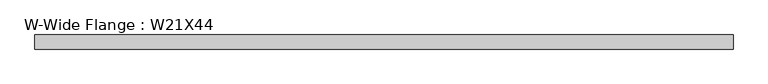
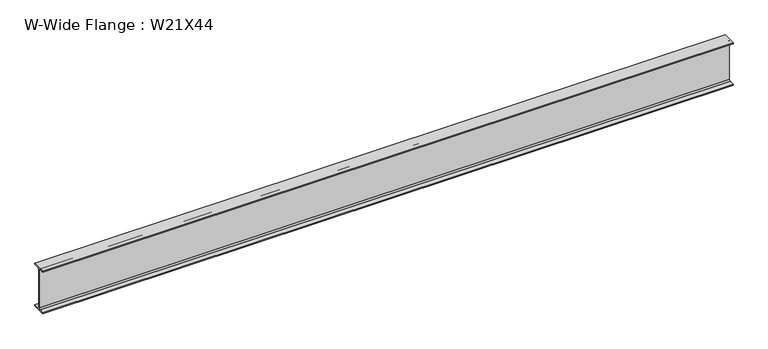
"""IFC4 building model written with IfcOpenShell, lengths in millimetres: beam geometry, W-Wide Flange : W21X44."""

import ifcopenshell
import ifcopenshell.guid

model = None  # the IFC model being written
_history = None  # IfcOwnerHistory: only IFC2X3 demands one
_inside = {}  # id of a spatial element -> (the spatial element, [elements in it])
_under = {}  # id of a project, library or spatial element -> (it, [spatial elements below it])
_declared = {}  # id of a project -> (the project, [libraries it declares])
_typed = {}  # id of a type object -> (the type object, [elements of that type])
_made_of = {}  # id of a material, layer set ... -> (it, [elements and type objects made of it])


def new_model(schema):
    """Start an empty IFC model of exactly this schema.

    Asked for "IFC4X3", IfcOpenShell would pick the latest addendum, in which some entities
    have other attributes; the version numbers below select the first issue.
    IFC2X3 requires an IfcOwnerHistory on every rooted entity: one is made here for all.
    """
    global model, _history
    if schema == "IFC4X3":
        model = ifcopenshell.file(schema_version=(4, 3, 0, 0))
    else:
        model = ifcopenshell.file(schema=schema)
    _inside.clear()
    _under.clear()
    _declared.clear()
    _typed.clear()
    _made_of.clear()
    _history = None
    if model.schema == "IFC2X3":
        org = make("IfcOrganization", Name="unknown")
        user = make(
            "IfcPersonAndOrganization",
            ThePerson=make("IfcPerson", FamilyName="unknown"),
            TheOrganization=org,
        )
        app = make(
            "IfcApplication",
            ApplicationDeveloper=org,
            Version="unknown",
            ApplicationFullName="unknown",
            ApplicationIdentifier="unknown",
        )
        _history = make(
            "IfcOwnerHistory",
            OwningUser=user,
            OwningApplication=app,
            ChangeAction="ADDED",
            CreationDate=0,
        )
    return model


def make(cls, **values):
    """One entity of the class cls with the attributes given. An attribute that is None is left unset."""
    return model.create_entity(
        cls, **{name: value for name, value in values.items() if value is not None}
    )


def rooted(cls, **values):
    """An entity with a GlobalId (a new one), such as an element, a storey or a relation."""
    return make(cls, GlobalId=ifcopenshell.guid.new(), OwnerHistory=_history, **values)


def si_unit(unit_type, name, prefix=None):
    """IfcSIUnit, for example si_unit("LENGTHUNIT", "METRE", prefix="MILLI")."""
    return make("IfcSIUnit", UnitType=unit_type, Prefix=prefix, Name=name)


def assignment(units):
    """IfcUnitAssignment: the units of a project."""
    return None if units is None else make("IfcUnitAssignment", Units=units)


def point(xyz):
    """IfcCartesianPoint."""
    return None if xyz is None else make("IfcCartesianPoint", Coordinates=xyz)


def direction(xyz):
    """IfcDirection."""
    return None if xyz is None else make("IfcDirection", DirectionRatios=xyz)


def frame(location, z_axis=None, x_axis=None):
    """IfcAxis2Placement3D, a coordinate frame: its origin and axes. An axis left out is left unset."""
    return make(
        "IfcAxis2Placement3D",
        Location=point(location),
        Axis=direction(z_axis),
        RefDirection=direction(x_axis),
    )


def frame_2d(location, x_axis=None):
    """IfcAxis2Placement2D, a coordinate frame in the plane: its origin and x axis."""
    return make(
        "IfcAxis2Placement2D", Location=point(location), RefDirection=direction(x_axis)
    )


def origin():
    """The frame at (0, 0, 0) with its axes left unset."""
    return frame((0.0, 0.0, 0.0))


def place(relative_to, where):
    """IfcLocalPlacement: puts the frame where relative to a parent placement (None: the world)."""
    return make(
        "IfcLocalPlacement", PlacementRelTo=relative_to, RelativePlacement=where
    )


def context(
    kind, dimensions, precision=None, world=None, true_north=None, identifier=None
):
    """IfcGeometricRepresentationContext, for example the 3D "Model" context."""
    return make(
        "IfcGeometricRepresentationContext",
        ContextIdentifier=identifier,
        ContextType=kind,
        CoordinateSpaceDimension=dimensions,
        Precision=precision,
        WorldCoordinateSystem=world,
        TrueNorth=true_north,
    )


def project(units=None, contexts=None):
    """IfcProject with its units and contexts."""
    return rooted(
        "IfcProject",
        Name="project",
        RepresentationContexts=contexts,
        UnitsInContext=assignment(units),
    )


def spatial(cls, under=None, at=None, **own):
    """A site, building, storey or space (cls), placed at a placement, below another one or the project."""
    s = rooted(cls, ObjectPlacement=at, **own)
    if under is not None:
        _under.setdefault(under.id(), (under, []))[1].append(s)
    return s


def polyline(points):
    """IfcPolyline through the points."""
    return make("IfcPolyline", Points=[point(p) for p in points])


def circle_curve(where, radius):
    """IfcCircle in the frame where."""
    return make("IfcCircle", Position=where, Radius=radius)


def trimmed(basis, trim1, trim2, sense, master):
    """IfcTrimmedCurve: the piece of a basis curve between two trims."""
    return make(
        "IfcTrimmedCurve",
        BasisCurve=basis,
        Trim1=trim1,
        Trim2=trim2,
        SenseAgreement=sense,
        MasterRepresentation=master,
    )


def segment(curve, same_sense, transition):
    """IfcCompositeCurveSegment."""
    return make(
        "IfcCompositeCurveSegment",
        Transition=transition,
        SameSense=same_sense,
        ParentCurve=curve,
    )


def composite_curve(segments, self_intersect=None):
    """IfcCompositeCurve: segments joined end to end."""
    return make("IfcCompositeCurve", Segments=segments, SelfIntersect=self_intersect)


def outline(outer, holes=None, kind="AREA"):
    """IfcArbitraryClosedProfileDef: a profile drawn as a closed curve; with holes, ...WithVoids."""
    if holes is None:
        return make("IfcArbitraryClosedProfileDef", ProfileType=kind, OuterCurve=outer)
    return make(
        "IfcArbitraryProfileDefWithVoids",
        ProfileType=kind,
        OuterCurve=outer,
        InnerCurves=holes,
    )


def extrude(swept, where, along, depth):
    """IfcExtrudedAreaSolid: the profile swept, set in the frame where, extruded along a direction by depth."""
    return make(
        "IfcExtrudedAreaSolid",
        SweptArea=swept,
        Position=where,
        ExtrudedDirection=direction(along),
        Depth=depth,
    )


def shape(context_of_items, identifier, shape_type, items):
    """IfcShapeRepresentation: the items that make up one representation, for example the "Body"."""
    return make(
        "IfcShapeRepresentation",
        ContextOfItems=context_of_items,
        RepresentationIdentifier=identifier,
        RepresentationType=shape_type,
        Items=items,
    )


def source(mapping_origin, context_of_items, identifier, shape_type, items):
    """IfcRepresentationMap: a shape defined once, which mapped items show again and again."""
    return make(
        "IfcRepresentationMap",
        MappingOrigin=mapping_origin,
        MappedRepresentation=shape(context_of_items, identifier, shape_type, items),
    )


def transform(
    local_origin,
    x_axis=None,
    y_axis=None,
    z_axis=None,
    scale=None,
    scale2=None,
    scale3=None,
    uniform=True,
):
    """IfcCartesianTransformationOperator3D, or its non-uniform kind. x_axis, y_axis, z_axis: its Axis1, 2, 3."""
    if uniform:
        return make(
            "IfcCartesianTransformationOperator3D",
            Axis1=direction(x_axis),
            Axis2=direction(y_axis),
            LocalOrigin=point(local_origin),
            Scale=scale,
            Axis3=direction(z_axis),
        )
    return make(
        "IfcCartesianTransformationOperator3DnonUniform",
        Axis1=direction(x_axis),
        Axis2=direction(y_axis),
        LocalOrigin=point(local_origin),
        Scale=scale,
        Axis3=direction(z_axis),
        Scale2=scale2,
        Scale3=scale3,
    )


def mapped(mapping_source, mapping_target):
    """IfcMappedItem: shows the shape of a source again, moved by a transform."""
    return make(
        "IfcMappedItem", MappingSource=mapping_source, MappingTarget=mapping_target
    )


def made_of(thing, what):
    """Note that an element or type object is made of a material, layer set ...; save() writes the relation."""
    if what is not None:
        _made_of.setdefault(what.id(), (what, []))[1].append(thing)
    return thing


def element(
    cls,
    number,
    at=None,
    inside=None,
    cuts=None,
    type_object=None,
    material=None,
    context=None,
    identifier="Body",
    shape_type=None,
    held_by="IfcProductDefinitionShape",
    body=None,
    shapes=None,
    **own,
):
    """One element of the class cls, such as IfcWall. Its Tag is "e" and its number.

    at: its placement. inside: the storey or other place that contains it. cuts: it is an
    opening in that element (IfcRelVoidsElement). A single representation is given by context,
    identifier, shape_type and body (its items); several are given by shapes. held_by: the class
    of the entity that holds the representations. save() writes the other relations.
    """
    e = rooted(cls, Tag="e%d" % number, ObjectPlacement=at, **own)
    if body is not None:
        shapes = [shape(context, identifier, shape_type, body)]
    if shapes is not None:
        e.Representation = make(held_by, Representations=shapes)
    if inside is not None:
        _inside.setdefault(inside.id(), (inside, []))[1].append(e)
    if cuts is not None:
        rooted(
            "IfcRelVoidsElement", RelatingBuildingElement=cuts, RelatedOpeningElement=e
        )
    if type_object is not None:
        _typed.setdefault(type_object.id(), (type_object, []))[1].append(e)
    return made_of(e, material)


def aggregate(whole, parts):
    """IfcRelAggregates: a whole, such as a stair, and the parts it consists of."""
    return rooted("IfcRelAggregates", RelatingObject=whole, RelatedObjects=parts)


def save(model, path):
    """Write the relations noted so far, then the file.

    IfcRelAggregates (storeys below a building ...), IfcRelContainedInSpatialStructure (elements
    in a storey), IfcRelDefinesByType, IfcRelAssociatesMaterial and IfcRelDeclares: one each for
    every whole, place, type object, material and project.
    """
    for whole, parts in _under.values():
        aggregate(whole, parts)
    for where, things in _inside.values():
        rooted(
            "IfcRelContainedInSpatialStructure",
            RelatedElements=things,
            RelatingStructure=where,
        )
    for kind, things in _typed.values():
        rooted("IfcRelDefinesByType", RelatedObjects=things, RelatingType=kind)
    for what, things in _made_of.values():
        rooted("IfcRelAssociatesMaterial", RelatedObjects=things, RelatingMaterial=what)
    for by, libraries in _declared.values():
        rooted("IfcRelDeclares", RelatingContext=by, RelatedDefinitions=libraries)
    model.write(path)


def w_wide_flange_w21x44_ac43757c(model_context):
    return source(origin(), model_context, "Body", "SweptSolid", [
        extrude(outline(composite_curve([segment(polyline([(82.55, -251.46), (82.55, -262.89), (-82.55, -262.89), (-82.55, -251.46), (-21.59, -251.46)]), True, "CONTINUOUS"), segment(trimmed(circle_curve(frame_2d((-21.59, -234.315)), 17.145), [point((-21.59, -251.46))], [point((-4.445, -234.315))], True, "CARTESIAN"), True, "CONTINUOUS"), segment(polyline([(-4.445, -234.315), (-4.445, 234.315)]), True, "CONTINUOUS"), segment(trimmed(circle_curve(frame_2d((-21.59, 234.315)), 17.145), [point((-4.445, 234.315))], [point((-21.59, 251.46))], True, "CARTESIAN"), True, "CONTINUOUS"), segment(polyline([(-21.59, 251.46), (-82.55, 251.46), (-82.55, 262.89), (82.55, 262.89), (82.55, 251.46), (21.59, 251.46)]), True, "CONTINUOUS"), segment(trimmed(circle_curve(frame_2d((21.59, 234.315)), 17.145), [point((21.59, 251.46))], [point((4.445, 234.315))], True, "CARTESIAN"), True, "CONTINUOUS"), segment(polyline([(4.445, 234.315), (4.445, -234.315)]), True, "CONTINUOUS"), segment(trimmed(circle_curve(frame_2d((21.59, -234.315)), 17.145), [point((4.445, -234.315))], [point((21.59, -251.46))], True, "CARTESIAN"), True, "CONTINUOUS"), segment(polyline([(21.59, -251.46), (82.55, -251.46)]), True, "CONTINUOUS")], self_intersect=False)), frame((-4105.2253906, 0.0, 0.0), z_axis=(1.0, 0.0, 0.0), x_axis=(0.0, 1.0, 0.0)), (0.0, 0.0, 1.0), 8138.2195313),
    ])


if __name__ == "__main__":
    model = new_model("IFC4")
    model_context = context("Model", 3, world=origin())
    ifc_project = project(units=[si_unit("LENGTHUNIT", "METRE", prefix="MILLI")], contexts=[model_context])
    site = spatial("IfcSite", under=ifc_project)
    building = spatial("IfcBuilding", under=site)
    placement = place(None, origin())
    w_wide_flange_w21x44_shape = w_wide_flange_w21x44_ac43757c(model_context)
    element("IfcBeam", 1, ObjectType="W-Wide Flange : W21X44", at=placement, inside=building, context=model_context, shape_type="MappedRepresentation", body=[
        mapped(w_wide_flange_w21x44_shape, transform((0.0, 0.0, 0.0), x_axis=(1.0, 0.0, 0.0), y_axis=(0.0, 1.0, 0.0), z_axis=(0.0, 0.0, 1.0))),
    ])
    save(model, "model.ifc")
